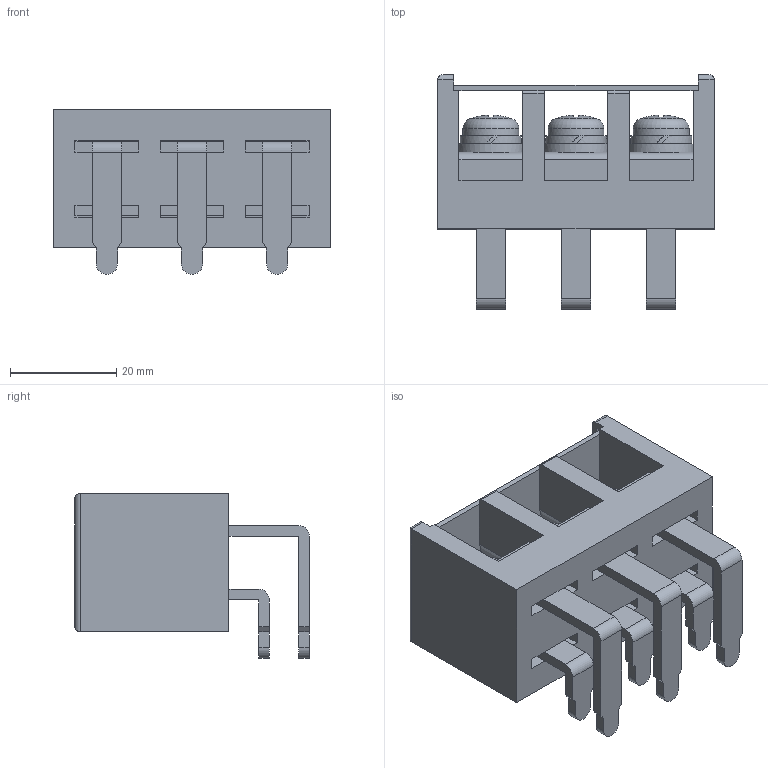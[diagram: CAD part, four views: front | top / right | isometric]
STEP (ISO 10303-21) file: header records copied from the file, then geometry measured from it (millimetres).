
FILE_DESCRIPTION(/* description */ ('Alibre Inc.'),/* implementation_level */ '2;1');
FILE_NAME(/* name */ 'export-56B78408-3F19-4C92-82FB-77D33E6C269D',/* time_stamp */ '2025-01-30T14:07:26+09:00',/* author */ (''),/* organization */ (''),/* preprocessor_version */ 'ST-DEVELOPER v17',/* originating_system */ 'Alibre',/* authorisation */ '');
FILE_SCHEMA (('CONFIG_CONTROL_DESIGN'));
Length unit declared in the file: millimetre
Bounding box: 52 x 44.1 x 31 mm (x, y, z)
Volume: 26347.9 mm3; surface area: 16180.8 mm2
Topology: 1 solids, 2 shells, 633 faces, 1758 edges, 1154 vertices
Faces by surface type: plane 412, bspline 150, cylinder 52, cone 13, torus 3, sphere 3
Full cylindrical faces by diameter (mm): 6 x1, 10.5 x3, 12.5 x2
Entity records: 19252 total; most frequent: CARTESIAN_POINT 4819, ORIENTED_EDGE 3486, DIRECTION 1993, EDGE_CURVE 1743, VECTOR 1153, LINE 1153, VERTEX_POINT 1149, EDGE_LOOP 686
